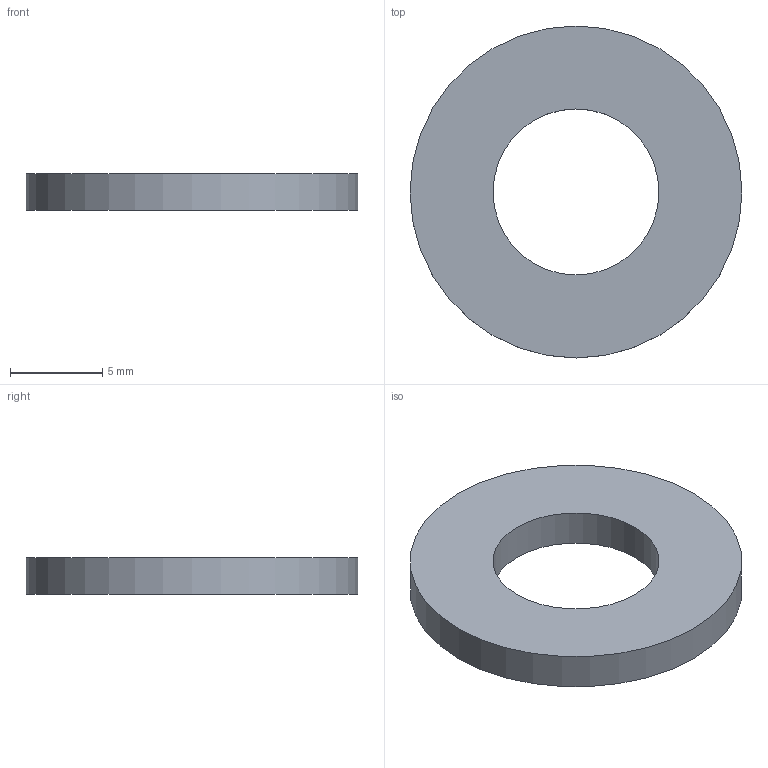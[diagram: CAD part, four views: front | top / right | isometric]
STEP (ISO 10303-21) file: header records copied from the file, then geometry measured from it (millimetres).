
FILE_DESCRIPTION(/* description */ (''),/* implementation_level */ '2;1');
FILE_NAME(/* name */ '',/* time_stamp */ '2024-04-08T11:17:30+09:00',/* author */ ('jhkim'),/* organization */ (''),/* preprocessor_version */ 'ST-DEVELOPER v20',/* originating_system */ 'Autodesk Inventor 2025',/* authorisation */ '');
FILE_SCHEMA (('AUTOMOTIVE_DESIGN { 1 0 10303 214 3 1 1 }'));
Length unit declared in the file: millimetre
Products named in the file (1): 스페이서
Bounding box: 18 x 18 x 2 mm (x, y, z)
Volume: 381.7 mm3; surface area: 551.3 mm2
Topology: 1 solids, 1 shells, 4 faces, 6 edges, 4 vertices
Faces by surface type: cylinder 2, plane 2
Full cylindrical faces by diameter (mm): 9 x1, 18 x1
Entity records: 141 total; most frequent: DIRECTION 20, CARTESIAN_POINT 15, ORIENTED_EDGE 12, AXIS2_PLACEMENT_3D 9, EDGE_LOOP 6, EDGE_CURVE 6, FACE_OUTER_BOUND 4, CIRCLE 4
